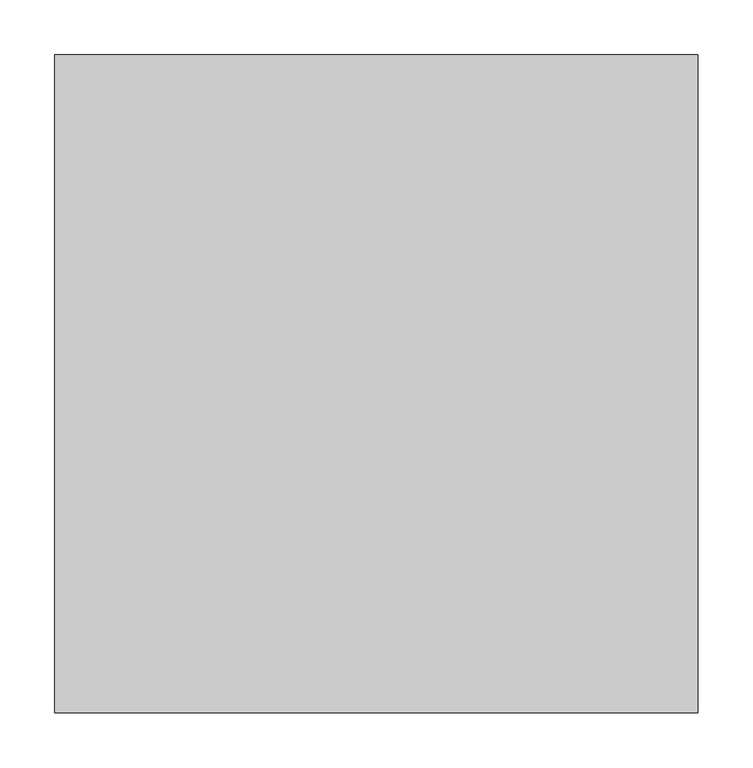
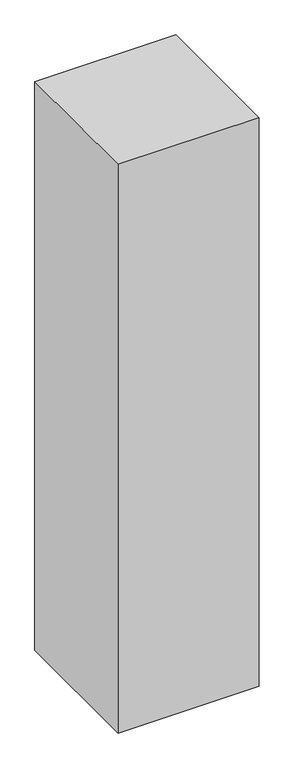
"""IFC4 building model written with IfcOpenShell, lengths in millimetres: proxy geometry."""

from ifc_helpers import new_model, si_unit, origin, origin_with_axes, place, context, project, spatial, polyline, outline, extrude, source, transform, mapped, element, save


def generic_models_0c89c90a(model_context):
    return source(origin(), model_context, "Body", "SweptSolid", [
        extrude(outline(polyline([(-112874.8280797, -42055.0027343), (-113461.8280797, -42055.0027343), (-113461.8280797, -41455.0027343), (-112874.8280797, -41455.0027343), (-112874.8280797, -42055.0027343)])), origin_with_axes(), (0.0, 0.0, 1.0), 2500.0),
    ])


if __name__ == "__main__":
    model = new_model("IFC4")
    model_context = context("Model", 3, world=origin())
    ifc_project = project(units=[si_unit("LENGTHUNIT", "METRE", prefix="MILLI")], contexts=[model_context])
    site = spatial("IfcSite", under=ifc_project)
    building = spatial("IfcBuilding", under=site)
    placement = place(None, origin())
    generic_models_shape = generic_models_0c89c90a(model_context)
    element("IfcBuildingElementProxy", 1, Name="Generic Models", at=placement, inside=building, context=model_context, shape_type="MappedRepresentation", body=[
        mapped(generic_models_shape, transform((0.0, 0.0, 0.0), x_axis=(1.0, 0.0, 0.0), y_axis=(0.0, 1.0, 0.0), z_axis=(0.0, 0.0, 1.0))),
    ])
    save(model, "model.ifc")
